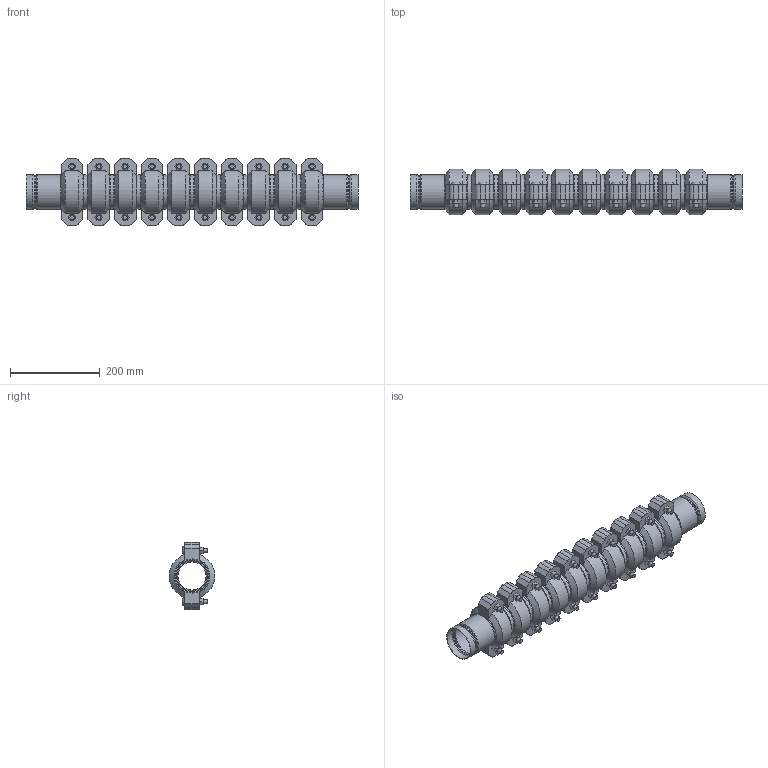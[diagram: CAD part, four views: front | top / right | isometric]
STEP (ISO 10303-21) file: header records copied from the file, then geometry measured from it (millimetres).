
FILE_DESCRIPTION(/* description */ ('VIC STRENGTHIN 100 EXPANSION JOINT 10 COUPLINGS NEUTRAL STYLE E155 (ST1)','CAx-IF Rec.Pracs.---Representation and Presentation of Product Manufacturing Information (PMI)---4.0---2014-10-13'),/* implementation_level */ '2;1');
FILE_NAME(/* name */ 'C:\Users\Vjadhav\AppData\Roaming\Autodesk\ApplicationPlugins\Victaulic.Temp\A165\Victaulic_SS-StrengThin 100_Expansion Joint_Neutral_10 Couplings_Style E155 (ST1)_10 Coup_Neut_02.5 (76.1) (65).stp',/* time_stamp */ '2021-07-20T17:39:44+05:00',/* author */ ('kkamble'),/* organization */ ('Victaulic'),/* preprocessor_version */ 'ST-DEVELOPER v17.2',/* originating_system */ 'Autodesk Inventor 2019',/* authorisation */ '');
FILE_SCHEMA (('AP242_MANAGED_MODEL_BASED_3D_ENGINEERING_MIM_LF { 1 0 10303 442 1 1 4 }'));
Length unit declared in the file: inch
Products named in the file (4): E155-02.5 (76.1); E494G-02.5 (76.1); Nipple-02.5 (76.1); 075-02.5 (76.1)
Assembly tree (21 placements, depth 2):
  E155-02.5 (76.1)
    E494G-02.5 (76.1)  x2
    Nipple-02.5 (76.1)  x9
    075-02.5 (76.1)  x10
Bounding box: 741.43 x 101.25 x 149.86 mm (x, y, z)
Volume: 2969793.9 mm3; surface area: 819985.7 mm2
Topology: 21 solids, 41 shells, 746 faces, 1862 edges, 1302 vertices
Faces by surface type: plane 426, cylinder 224, cone 44, torus 32, bspline 20
Full cylindrical faces by diameter (mm): 9.525 x40, 11.43 x20, 62.713 x9, 67.158 x2, 69.063 x2, 69.85 x10, 70.358 x2, 72.263 x20, 73 x6, 76.2 x53
Entity records: 3880 total; most frequent: CARTESIAN_POINT 699, DIRECTION 687, ORIENTED_EDGE 556, AXIS2_PLACEMENT_3D 293, EDGE_CURVE 278, VERTEX_POINT 199, CIRCLE 167, EDGE_LOOP 127
